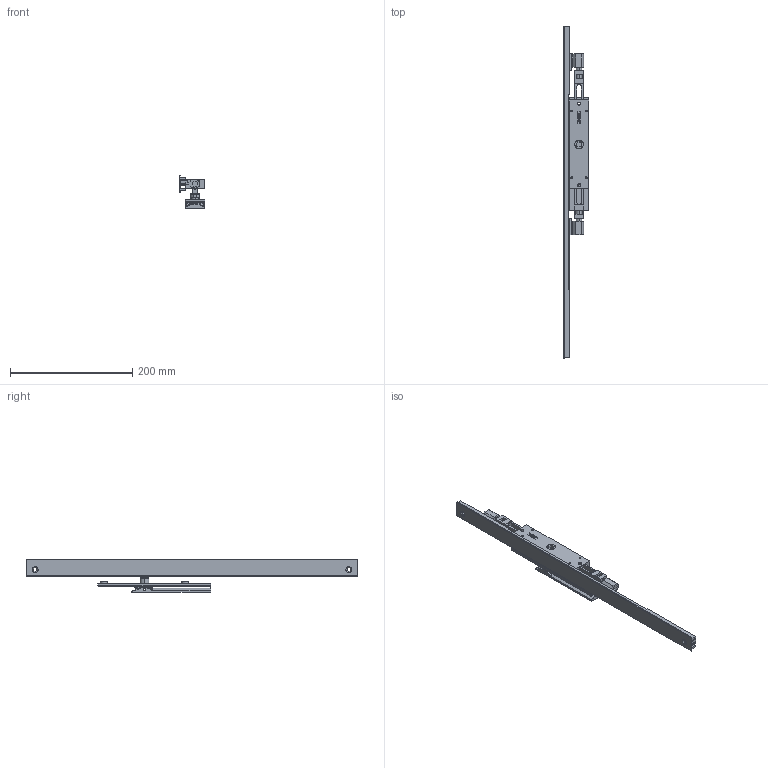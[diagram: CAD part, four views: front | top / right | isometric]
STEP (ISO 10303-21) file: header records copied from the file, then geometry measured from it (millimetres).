
FILE_DESCRIPTION (( 'STEP AP214' ), '1' );
FILE_NAME ('TPL-W-509-L 19July2024.STEP', '2024-12-05T00:00:40', ( '' ), ( '' ), 'SwSTEP 2.0', 'SolidWorks 2023', '' );
FILE_SCHEMA (( 'AUTOMOTIVE_DESIGN' ));
Length unit declared in the file: millimetre
Products named in the file (16): TPL-W-509-L 19July2024; COV-112-B Cover B suit TPLGen2 standard range^TPL-W-009 19July2024_2870mm; Copy of COV-112-A Cover A suit TPLGen2 standard range^TPL-W-009 19July2024_1335mm; Copy of Handle sub-assembly - simplified^Copy of TPGen2 handle non-keyed - simplified_TPL-W-009 19July2024; Copy of COV-112-C Cover C TPLGen2 Lock body^TPL-W-009 19July2024; Copy of LKC-547 Spindle - simplified^Copy of TPGen2 handle non-keyed - simplified_TPL-W-009 19July2024_G - 24mm; Copy of TPLGen2 lock body non-keyed assembly^TPL-W-009 19July2024_Bolts extended; Copy of TPGen2 handle non-keyed - simplified^TPL-W-009 19July2024_Vertical; Copy of Copy of LKC-531 Lock twinpoint transmission rod wood system^TPL-W-009 19July2024_Standard Range 2891.7mm; Copy of Escutcheon plate unkeyed 185mm - simplified^Copy of TPGen2 handle non-keyed - simplified_TPL-W-009 19July2024; TPLGen2 push rod - simplified^Copy of TPLGen2 lock body non-keyed assembly_TPL-W-009 19July2024_Female thread M10; LKC-531 Lock twinpoint transmission rod wood system^TPL-W-009 19July2024_Standard Range 2891.7mm; Copy of Adapter CnE - simplfied^TPL-W-009 19July2024_26mm backset; Copy of TPLGen2 lock body non-keyed^Copy of TPLGen2 lock body non-keyed assembly_TPL-W-009 19July2024; Copy of Adapter DnF - simplfied^TPL-W-009 19July2024_26mm backset; Bolt(2)^TPL-W-009 19July2024
Assembly tree (13 placements, depth 3):
  TPL-W-509-L 19July2024
    Copy of TPLGen2 lock body non-keyed assembly^TPL-W-009 19July2024_Bolts extended
      Copy of TPLGen2 lock body non-keyed^Copy of TPLGen2 lock body non-keyed assembly_TPL-W-009 19July2024
      TPLGen2 push rod - simplified^Copy of TPLGen2 lock body non-keyed assembly_TPL-W-009 19July2024_Female thread M10  x2
    Copy of TPGen2 handle non-keyed - simplified^TPL-W-009 19July2024_Vertical
      Copy of Escutcheon plate unkeyed 185mm - simplified^Copy of TPGen2 handle non-keyed - simplified_TPL-W-009 19July2024
      Copy of Handle sub-assembly - simplified^Copy of TPGen2 handle non-keyed - simplified_TPL-W-009 19July2024
      Copy of LKC-547 Spindle - simplified^Copy of TPGen2 handle non-keyed - simplified_TPL-W-009 19July2024_G - 24mm
    Copy of COV-112-C Cover C TPLGen2 Lock body^TPL-W-009 19July2024
    Copy of Copy of LKC-531 Lock twinpoint transmission rod wood system^TPL-W-009 19July2024_Standard Range 2891.7mm
    LKC-531 Lock twinpoint transmission rod wood system^TPL-W-009 19July2024_Standard Range 2891.7mm
    Copy of Adapter DnF - simplfied^TPL-W-009 19July2024_26mm backset
    Copy of Adapter CnE - simplfied^TPL-W-009 19July2024_26mm backset
  COV-112-B Cover B suit TPLGen2 standard range^TPL-W-009 19July2024_2870mm
  Copy of COV-112-A Cover A suit TPLGen2 standard range^TPL-W-009 19July2024_1335mm
  Bolt(2)^TPL-W-009 19July2024
Bounding box: 42 x 544 x 53.97 mm (x, y, z)
Volume: 208710 mm3; surface area: 118571.8 mm2
Topology: 12 solids, 12 shells, 637 faces, 1619 edges, 1023 vertices
Faces by surface type: plane 297, cylinder 199, bspline 77, torus 32, cone 20, sphere 12
Entity records: 19167 total; most frequent: CARTESIAN_POINT 4477, ORIENTED_EDGE 3022, DIRECTION 2859, EDGE_CURVE 1511, AXIS2_PLACEMENT_3D 985, VERTEX_POINT 963, VECTOR 889, LINE 889
